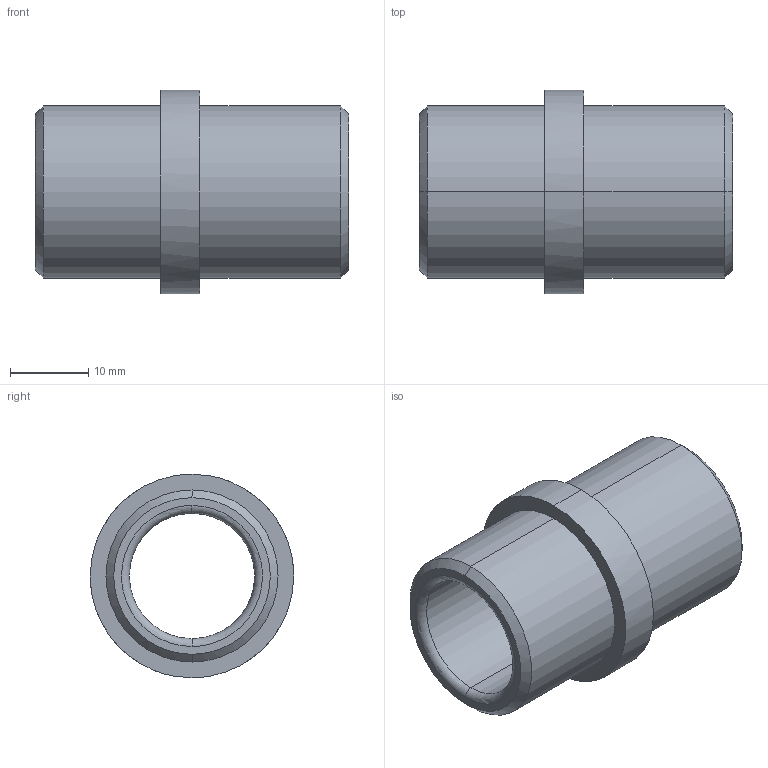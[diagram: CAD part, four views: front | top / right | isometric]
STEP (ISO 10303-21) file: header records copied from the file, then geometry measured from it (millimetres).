
FILE_DESCRIPTION(('CATIA V5 STEP Exchange'),'2;1');
FILE_NAME('C:\Users\Utente\Desktop\IO LAVORO\3D X SITO CF\X SITO\PLASTICA\355\355-16X40.stp','2021-04-21T08:57:16+00:00',('none'),('none'),'CATIA Version 5 Release 20 GA (IN-10)','CATIA V5 STEP AP203','none');
FILE_SCHEMA(('CONFIG_CONTROL_DESIGN'));
Length unit declared in the file: millimetre
Products named in the file (1): 355-16X40
Bounding box: 40 x 26 x 26 mm (x, y, z)
Volume: 7827.6 mm3; surface area: 5372 mm2
Topology: 1 solids, 1 shells, 20 faces, 64 edges, 48 vertices
Faces by surface type: cylinder 8, plane 4, cone 4, torus 4
Entity records: 906 total; most frequent: CARTESIAN_POINT 301, ORIENTED_EDGE 128, DIRECTION 92, EDGE_CURVE 64, AXIS2_PLACEMENT_3D 61, VERTEX_POINT 48, CIRCLE 40, EDGE_LOOP 24
